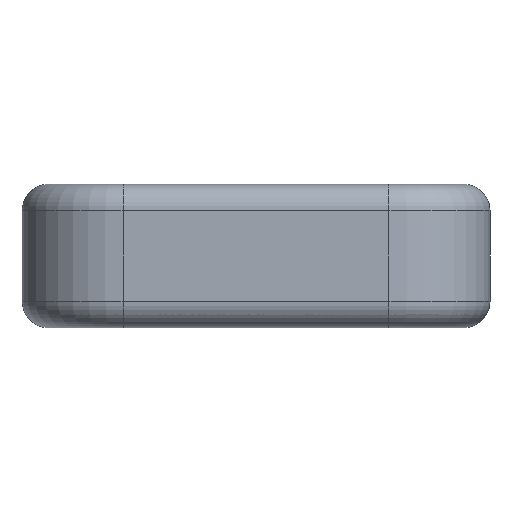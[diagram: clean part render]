
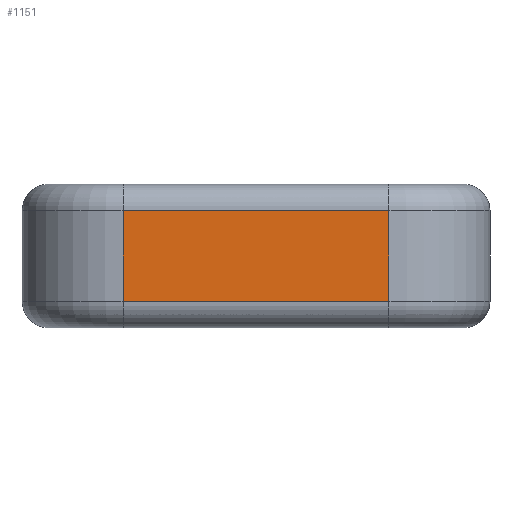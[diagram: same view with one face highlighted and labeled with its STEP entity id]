
A CAD part, front view. The second image highlights one B-rep face of the part: STEP entity #1151.
In plain terms, the highlighted planar face has unit normal (0, -1, 0).
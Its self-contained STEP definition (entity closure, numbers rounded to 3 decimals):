
#44 = CYLINDRICAL_SURFACE('',#45,19.);
#45 = AXIS2_PLACEMENT_3D('',#46,#47,#48);
#46 = CARTESIAN_POINT('',(-25.,-49.,-13.5));
#47 = DIRECTION('',(0.,0.,1.));
#48 = DIRECTION('',(-1.,-0.,0.));
#373 = VERTEX_POINT('',#374);
#374 = CARTESIAN_POINT('',(-25.,-68.,-8.5));
#401 = EDGE_CURVE('',#373,#402,#404,.T.);
#402 = VERTEX_POINT('',#403);
#403 = CARTESIAN_POINT('',(-25.,-68.,8.5));
#404 = SURFACE_CURVE('',#405,(#409,#416),.PCURVE_S1.);
#405 = LINE('',#406,#407);
#406 = CARTESIAN_POINT('',(-25.,-68.,-13.5));
#407 = VECTOR('',#408,1.);
#408 = DIRECTION('',(0.,0.,1.));
#409 = PCURVE('',#44,#410);
#410 = DEFINITIONAL_REPRESENTATION('',(#411),#415);
#411 = LINE('',#412,#413);
#412 = CARTESIAN_POINT('',(1.571,0.));
#413 = VECTOR('',#414,1.);
#414 = DIRECTION('',(0.,1.));
#415 = ( GEOMETRIC_REPRESENTATION_CONTEXT(2) 
PARAMETRIC_REPRESENTATION_CONTEXT() REPRESENTATION_CONTEXT('2D SPACE',''
  ) );
#416 = PCURVE('',#417,#422);
#417 = PLANE('',#418);
#418 = AXIS2_PLACEMENT_3D('',#419,#420,#421);
#419 = CARTESIAN_POINT('',(-44.,-68.,-13.5));
#420 = DIRECTION('',(0.,1.,0.));
#421 = DIRECTION('',(0.,-0.,1.));
#422 = DEFINITIONAL_REPRESENTATION('',(#423),#427);
#423 = LINE('',#424,#425);
#424 = CARTESIAN_POINT('',(0.,19.));
#425 = VECTOR('',#426,1.);
#426 = DIRECTION('',(1.,0.));
#427 = ( GEOMETRIC_REPRESENTATION_CONTEXT(2) 
PARAMETRIC_REPRESENTATION_CONTEXT() REPRESENTATION_CONTEXT('2D SPACE',''
  ) );
#1112 = CYLINDRICAL_SURFACE('',#1113,5.);
#1113 = AXIS2_PLACEMENT_3D('',#1114,#1115,#1116);
#1114 = CARTESIAN_POINT('',(25.,-63.,-8.5));
#1115 = DIRECTION('',(-1.,-0.,-0.));
#1116 = DIRECTION('',(0.,-1.,0.));
#1151 = ADVANCED_FACE('',(#1152),#417,.F.);
#1152 = FACE_BOUND('',#1153,.F.);
#1153 = EDGE_LOOP('',(#1154,#1155,#1183,#1211));
#1154 = ORIENTED_EDGE('',*,*,#401,.T.);
#1155 = ORIENTED_EDGE('',*,*,#1156,.F.);
#1156 = EDGE_CURVE('',#1157,#402,#1159,.T.);
#1157 = VERTEX_POINT('',#1158);
#1158 = CARTESIAN_POINT('',(25.,-68.,8.5));
#1159 = SURFACE_CURVE('',#1160,(#1164,#1171),.PCURVE_S1.);
#1160 = LINE('',#1161,#1162);
#1161 = CARTESIAN_POINT('',(25.,-68.,8.5));
#1162 = VECTOR('',#1163,1.);
#1163 = DIRECTION('',(-1.,-0.,-0.));
#1164 = PCURVE('',#417,#1165);
#1165 = DEFINITIONAL_REPRESENTATION('',(#1166),#1170);
#1166 = LINE('',#1167,#1168);
#1167 = CARTESIAN_POINT('',(22.,69.));
#1168 = VECTOR('',#1169,1.);
#1169 = DIRECTION('',(0.,-1.));
#1170 = ( GEOMETRIC_REPRESENTATION_CONTEXT(2) 
PARAMETRIC_REPRESENTATION_CONTEXT() REPRESENTATION_CONTEXT('2D SPACE',''
  ) );
#1171 = PCURVE('',#1172,#1177);
#1172 = CYLINDRICAL_SURFACE('',#1173,5.);
#1173 = AXIS2_PLACEMENT_3D('',#1174,#1175,#1176);
#1174 = CARTESIAN_POINT('',(25.,-63.,8.5));
#1175 = DIRECTION('',(-1.,-0.,-0.));
#1176 = DIRECTION('',(0.,-1.,0.));
#1177 = DEFINITIONAL_REPRESENTATION('',(#1178),#1182);
#1178 = LINE('',#1179,#1180);
#1179 = CARTESIAN_POINT('',(0.,0.));
#1180 = VECTOR('',#1181,1.);
#1181 = DIRECTION('',(0.,1.));
#1182 = ( GEOMETRIC_REPRESENTATION_CONTEXT(2) 
PARAMETRIC_REPRESENTATION_CONTEXT() REPRESENTATION_CONTEXT('2D SPACE',''
  ) );
#1183 = ORIENTED_EDGE('',*,*,#1184,.F.);
#1184 = EDGE_CURVE('',#1185,#1157,#1187,.T.);
#1185 = VERTEX_POINT('',#1186);
#1186 = CARTESIAN_POINT('',(25.,-68.,-8.5));
#1187 = SURFACE_CURVE('',#1188,(#1192,#1199),.PCURVE_S1.);
#1188 = LINE('',#1189,#1190);
#1189 = CARTESIAN_POINT('',(25.,-68.,-13.5));
#1190 = VECTOR('',#1191,1.);
#1191 = DIRECTION('',(0.,0.,1.));
#1192 = PCURVE('',#417,#1193);
#1193 = DEFINITIONAL_REPRESENTATION('',(#1194),#1198);
#1194 = LINE('',#1195,#1196);
#1195 = CARTESIAN_POINT('',(0.,69.));
#1196 = VECTOR('',#1197,1.);
#1197 = DIRECTION('',(1.,0.));
#1198 = ( GEOMETRIC_REPRESENTATION_CONTEXT(2) 
PARAMETRIC_REPRESENTATION_CONTEXT() REPRESENTATION_CONTEXT('2D SPACE',''
  ) );
#1199 = PCURVE('',#1200,#1205);
#1200 = CYLINDRICAL_SURFACE('',#1201,19.);
#1201 = AXIS2_PLACEMENT_3D('',#1202,#1203,#1204);
#1202 = CARTESIAN_POINT('',(25.,-49.,-13.5));
#1203 = DIRECTION('',(0.,0.,1.));
#1204 = DIRECTION('',(1.,0.,-0.));
#1205 = DEFINITIONAL_REPRESENTATION('',(#1206),#1210);
#1206 = LINE('',#1207,#1208);
#1207 = CARTESIAN_POINT('',(4.712,0.));
#1208 = VECTOR('',#1209,1.);
#1209 = DIRECTION('',(-0.,1.));
#1210 = ( GEOMETRIC_REPRESENTATION_CONTEXT(2) 
PARAMETRIC_REPRESENTATION_CONTEXT() REPRESENTATION_CONTEXT('2D SPACE',''
  ) );
#1211 = ORIENTED_EDGE('',*,*,#1212,.T.);
#1212 = EDGE_CURVE('',#1185,#373,#1213,.T.);
#1213 = SURFACE_CURVE('',#1214,(#1218,#1225),.PCURVE_S1.);
#1214 = LINE('',#1215,#1216);
#1215 = CARTESIAN_POINT('',(25.,-68.,-8.5));
#1216 = VECTOR('',#1217,1.);
#1217 = DIRECTION('',(-1.,-0.,-0.));
#1218 = PCURVE('',#417,#1219);
#1219 = DEFINITIONAL_REPRESENTATION('',(#1220),#1224);
#1220 = LINE('',#1221,#1222);
#1221 = CARTESIAN_POINT('',(5.,69.));
#1222 = VECTOR('',#1223,1.);
#1223 = DIRECTION('',(0.,-1.));
#1224 = ( GEOMETRIC_REPRESENTATION_CONTEXT(2) 
PARAMETRIC_REPRESENTATION_CONTEXT() REPRESENTATION_CONTEXT('2D SPACE',''
  ) );
#1225 = PCURVE('',#1112,#1226);
#1226 = DEFINITIONAL_REPRESENTATION('',(#1227),#1231);
#1227 = LINE('',#1228,#1229);
#1228 = CARTESIAN_POINT('',(6.283,0.));
#1229 = VECTOR('',#1230,1.);
#1230 = DIRECTION('',(-0.,1.));
#1231 = ( GEOMETRIC_REPRESENTATION_CONTEXT(2) 
PARAMETRIC_REPRESENTATION_CONTEXT() REPRESENTATION_CONTEXT('2D SPACE',''
  ) );
